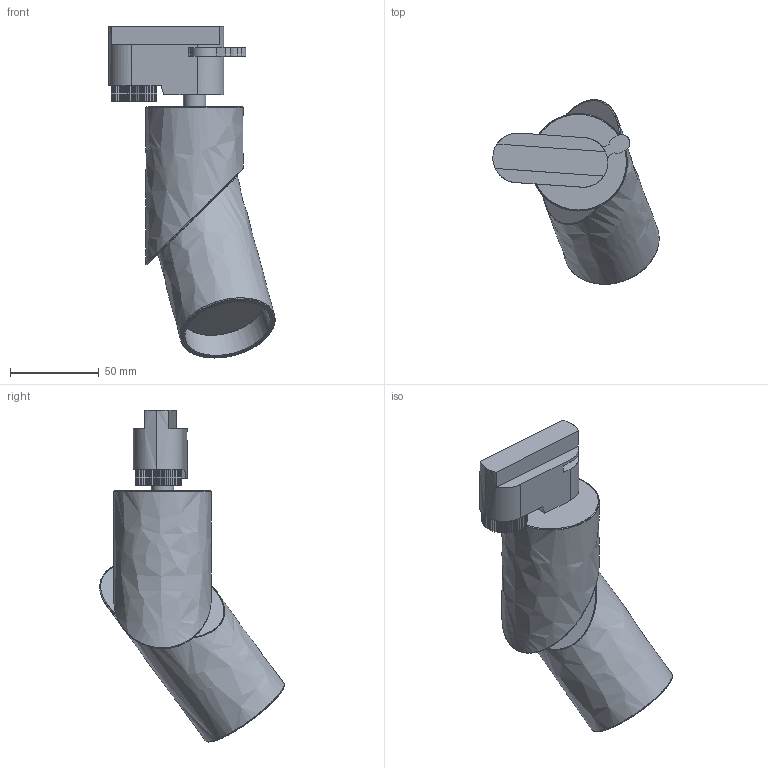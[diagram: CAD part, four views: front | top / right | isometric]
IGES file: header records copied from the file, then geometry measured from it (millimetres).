
Start section: SolidWorks IGES file using NURBS representation for surfaces
Global section: file name: Z:\Modele 3D_WWW\_KOLEKCJE WWW\PROFILE SYSTEM\PROFILE-INDIA-7656-7657\PROFILE-INDIA-7656-7657.IGS; native system: SolidWorks 2021; preprocessor: SolidWorks 2021; author: gabriela.tworek; date: 220204.114930; units: millimetre
Bounding box: 93.89 x 104.21 x 187.48 mm (x, y, z)
Surface area: 72541.3 mm2 (no closed solid volume)
Topology: 0 solids, 0 shells, 178 faces, 1016 edges, 1002 vertices
Faces by surface type: bspline 178
